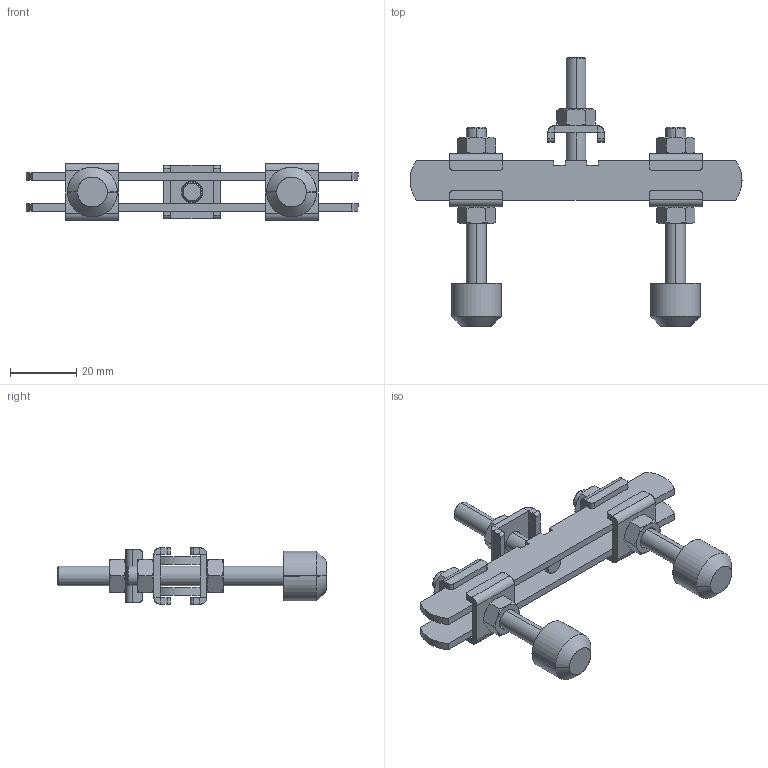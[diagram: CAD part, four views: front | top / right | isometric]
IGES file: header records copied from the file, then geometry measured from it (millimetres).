
Start section: SolidWorks IGES file using analytic representation for surfaces
Global section: file name: C:\Projetos\Ponteiras\PBD\PBD-M6.IGS; native system: SolidWorks 2011; preprocessor: SolidWorks 2011; author: Usuario; date: 110915.113638; units: millimetre
Bounding box: 100 x 81 x 17 mm (x, y, z)
Surface area: 16463.8 mm2 (no closed solid volume)
Topology: 0 solids, 0 shells, 344 faces, 3768 edges, 3764 vertices
Faces by surface type: revolution 180, bspline 164
